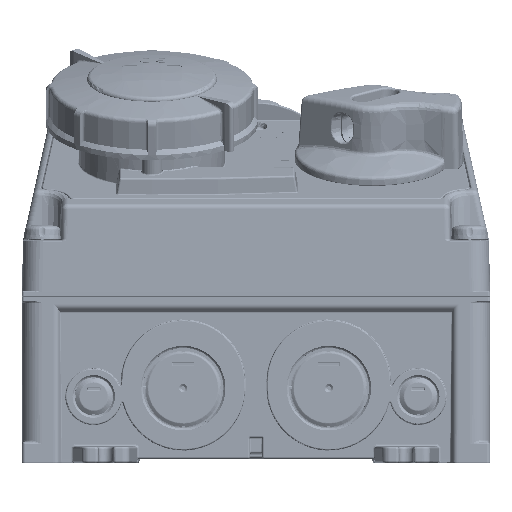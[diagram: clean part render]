
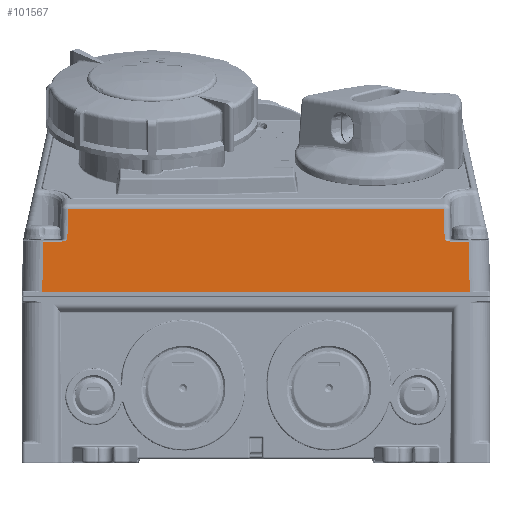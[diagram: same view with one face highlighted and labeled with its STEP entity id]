
A CAD part, front view. The second image highlights one B-rep face of the part: STEP entity #101567.
In plain terms, the highlighted planar face has unit normal (0, -1, 0.018).
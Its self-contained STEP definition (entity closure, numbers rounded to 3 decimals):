
#8606=DIRECTION('',(1.,0.,0.));
#8607=VECTOR('',#8606,223.);
#8608=CARTESIAN_POINT('',(1.,0.,82.));
#8609=LINE('44195',#8608,#8607);
#8777=DIRECTION('',(-0.012,0.017,1.));
#8778=VECTOR('',#8777,0.059);
#8779=CARTESIAN_POINT('',(224.,0.,82.));
#8780=LINE('44237',#8779,#8778);
#8796=CARTESIAN_POINT('',(223.999,0.001,82.059));
#8851=CARTESIAN_POINT('',(215.25,0.001,82.059));
#8862=DIRECTION('',(-1.,0.,0.));
#8863=VECTOR('',#8862,8.749);
#8864=CARTESIAN_POINT('',(223.999,0.001,82.059));
#8865=LINE('44254',#8864,#8863);
#8866=DIRECTION('',(0.017,0.017,1.));
#8867=VECTOR('',#8866,24.457);
#8868=CARTESIAN_POINT('',(9.75,0.001,82.059));
#8869=LINE('44256',#8868,#8867);
#8870=DIRECTION('',(0.009,0.017,1.));
#8871=VECTOR('',#8870,14.45);
#8872=CARTESIAN_POINT('',(21.854,0.445,107.491));
#8873=LINE('44259',#8872,#8871);
#8874=DIRECTION('',(0.009,-0.017,-1.));
#8875=VECTOR('',#8874,14.45);
#8876=CARTESIAN_POINT('',(203.02,0.697,121.939));
#8877=LINE('44261',#8876,#8875);
#8878=DIRECTION('',(0.017,-0.017,-1.));
#8879=VECTOR('',#8878,24.457);
#8880=CARTESIAN_POINT('',(214.824,0.428,106.509));
#8881=LINE('44264',#8880,#8879);
#8889=DIRECTION('',(-1.,0.,0.));
#8890=VECTOR('',#8889,8.749);
#8891=CARTESIAN_POINT('',(9.75,0.001,82.059));
#8892=LINE('44255',#8891,#8890);
#9002=DIRECTION('',(-0.012,-0.017,-1.));
#9003=VECTOR('',#9002,0.059);
#9004=CARTESIAN_POINT('',(1.001,0.001,82.059));
#9005=LINE('44265',#9004,#9003);
#9886=CARTESIAN_POINT('',(205.578,0.428,106.509));
#9887=CARTESIAN_POINT('',(205.518,0.428,106.509));
#9888=CARTESIAN_POINT('',(205.394,0.428,106.514));
#9889=CARTESIAN_POINT('',(205.196,0.428,106.539));
#9890=CARTESIAN_POINT('',(204.979,0.429,106.584));
#9891=CARTESIAN_POINT('',(204.739,0.43,106.653));
#9892=CARTESIAN_POINT('',(204.474,0.432,106.752));
#9893=CARTESIAN_POINT('',(204.184,0.434,106.883));
#9894=CARTESIAN_POINT('',(203.869,0.437,107.049));
#9895=CARTESIAN_POINT('',(203.526,0.441,107.252));
#9896=CARTESIAN_POINT('',(203.277,0.443,107.409));
#9897=CARTESIAN_POINT('',(203.146,0.445,107.491));
#9903=DIRECTION('',(-1.,0.,0.));
#9904=VECTOR('',#9903,9.246);
#9905=CARTESIAN_POINT('',(214.824,0.428,106.509));
#9906=LINE('44263',#9905,#9904);
#9939=DIRECTION('',(-1.,0.,0.));
#9940=VECTOR('',#9939,181.04);
#9941=CARTESIAN_POINT('',(203.02,0.697,121.939));
#9942=LINE('44260',#9941,#9940);
#10330=CARTESIAN_POINT('',(21.854,0.445,
107.491));
#10331=CARTESIAN_POINT('',(21.723,0.443,
107.409));
#10332=CARTESIAN_POINT('',(21.474,0.441,
107.252));
#10333=CARTESIAN_POINT('',(21.131,0.437,
107.05));
#10334=CARTESIAN_POINT('',(20.816,0.434,
106.883));
#10335=CARTESIAN_POINT('',(20.526,0.432,
106.752));
#10336=CARTESIAN_POINT('',(20.261,0.43,
106.653));
#10337=CARTESIAN_POINT('',(20.022,0.429,
106.584));
#10338=CARTESIAN_POINT('',(19.804,0.428,
106.539));
#10339=CARTESIAN_POINT('',(19.605,0.428,
106.514));
#10340=CARTESIAN_POINT('',(19.482,0.428,
106.509));
#10341=CARTESIAN_POINT('',(19.422,0.428,
106.509));
#10352=DIRECTION('',(-1.,0.,0.));
#10353=VECTOR('',#10352,9.246);
#10354=CARTESIAN_POINT('',(19.422,0.428,
106.509));
#10355=LINE('44257',#10354,#10353);
#73135=CARTESIAN_POINT('',(1.,0.,
82.));
#73136=VERTEX_POINT('',#73135);
#73137=CARTESIAN_POINT('',(224.,0.,
82.));
#73138=VERTEX_POINT('',#73137);
#73184=VERTEX_POINT('',#8796);
#73202=VERTEX_POINT('',#8851);
#73203=CARTESIAN_POINT('',(9.75,0.001,
82.059));
#73204=CARTESIAN_POINT('',(1.001,0.001,
82.059));
#73205=VERTEX_POINT('',#73203);
#73206=VERTEX_POINT('',#73204);
#73207=CARTESIAN_POINT('',(10.176,0.428,
106.509));
#73208=VERTEX_POINT('',#73207);
#73209=CARTESIAN_POINT('',(19.422,0.428,
106.509));
#73210=VERTEX_POINT('',#73209);
#73211=VERTEX_POINT('',#10330);
#73212=CARTESIAN_POINT('',(21.98,0.697,
121.939));
#73213=VERTEX_POINT('',#73212);
#73214=CARTESIAN_POINT('',(203.02,0.697,
121.939));
#73215=VERTEX_POINT('',#73214);
#73216=CARTESIAN_POINT('',(203.146,0.445,
107.491));
#73217=VERTEX_POINT('',#73216);
#73218=VERTEX_POINT('',#9886);
#73219=CARTESIAN_POINT('',(214.824,0.428,
106.509));
#73220=VERTEX_POINT('',#73219);
#101535=CARTESIAN_POINT('',(0.,0.733,124.));
#101536=DIRECTION('',(0.,-1.,0.017));
#101537=DIRECTION('',(0.,-0.017,-1.));
#101538=AXIS2_PLACEMENT_3D('',#101535,#101536,#101537);
#101539=PLANE('55587',#101538);
#101541=ORIENTED_EDGE('44255',*,*,#101540,.F.);
#101543=ORIENTED_EDGE('44256',*,*,#101542,.T.);
#101545=ORIENTED_EDGE('44257',*,*,#101544,.F.);
#101547=ORIENTED_EDGE('44258',*,*,#101546,.F.);
#101549=ORIENTED_EDGE('44259',*,*,#101548,.T.);
#101551=ORIENTED_EDGE('44260',*,*,#101550,.F.);
#101553=ORIENTED_EDGE('44261',*,*,#101552,.T.);
#101555=ORIENTED_EDGE('44262',*,*,#101554,.F.);
#101557=ORIENTED_EDGE('44263',*,*,#101556,.F.);
#101559=ORIENTED_EDGE('44264',*,*,#101558,.T.);
#101560=ORIENTED_EDGE('44254',*,*,#101523,.F.);
#101561=ORIENTED_EDGE('44237',*,*,#101347,.F.);
#101562=ORIENTED_EDGE('44195',*,*,#100957,.F.);
#101564=ORIENTED_EDGE('44265',*,*,#101563,.F.);
#101565=EDGE_LOOP('55587',(#101541,#101543,#101545,#101547,#101549,#101551,
#101553,#101555,#101557,#101559,#101560,#101561,#101562,#101564));
#101566=FACE_OUTER_BOUND('55587',#101565,.F.);
#9898=B_SPLINE_CURVE_WITH_KNOTS('44262',3,(#9886,#9887,#9888,#9889,#9890,#9891,
#9892,#9893,#9894,#9895,#9896,#9897),.UNSPECIFIED.,.F.,.F.,(4,1,1,1,1,1,1,1,1,
4),(0.,0.111,0.222,0.333,
0.444,0.556,0.667,0.778,
0.889,1.),.UNSPECIFIED.);
#10342=B_SPLINE_CURVE_WITH_KNOTS('44258',3,(#10330,#10331,#10332,#10333,#10334,
#10335,#10336,#10337,#10338,#10339,#10340,#10341),.UNSPECIFIED.,.F.,.F.,(4,1,1,
1,1,1,1,1,1,4),(0.,0.111,0.222,0.333,
0.444,0.556,0.667,0.778,
0.889,1.),.UNSPECIFIED.);
#100957=EDGE_CURVE('44195',#73136,#73138,#8609,.T.);
#101347=EDGE_CURVE('44237',#73138,#73184,#8780,.T.);
#101523=EDGE_CURVE('44254',#73184,#73202,#8865,.T.);
#101540=EDGE_CURVE('44255',#73205,#73206,#8892,.T.);
#101542=EDGE_CURVE('44256',#73205,#73208,#8869,.T.);
#101544=EDGE_CURVE('44257',#73210,#73208,#10355,.T.);
#101546=EDGE_CURVE('44258',#73211,#73210,#10342,.T.);
#101548=EDGE_CURVE('44259',#73211,#73213,#8873,.T.);
#101550=EDGE_CURVE('44260',#73215,#73213,#9942,.T.);
#101552=EDGE_CURVE('44261',#73215,#73217,#8877,.T.);
#101554=EDGE_CURVE('44262',#73218,#73217,#9898,.T.);
#101556=EDGE_CURVE('44263',#73220,#73218,#9906,.T.);
#101558=EDGE_CURVE('44264',#73220,#73202,#8881,.T.);
#101563=EDGE_CURVE('44265',#73206,#73136,#9005,.T.);
#101567=ADVANCED_FACE('55587',(#101566),#101539,.T.);
